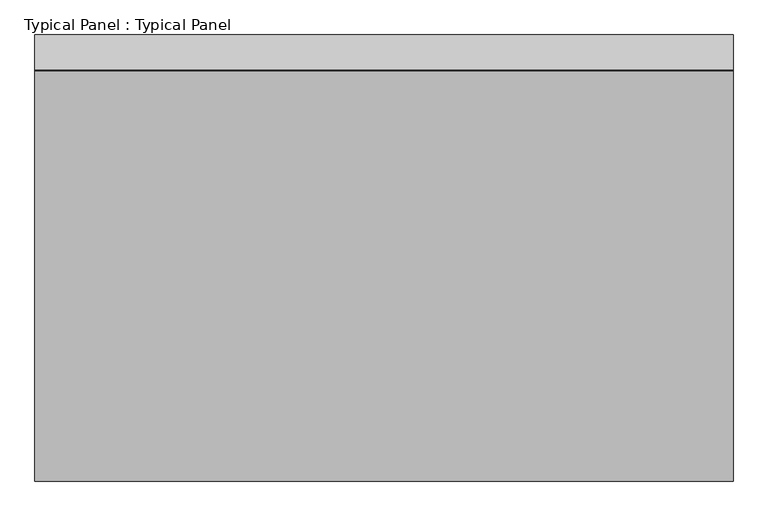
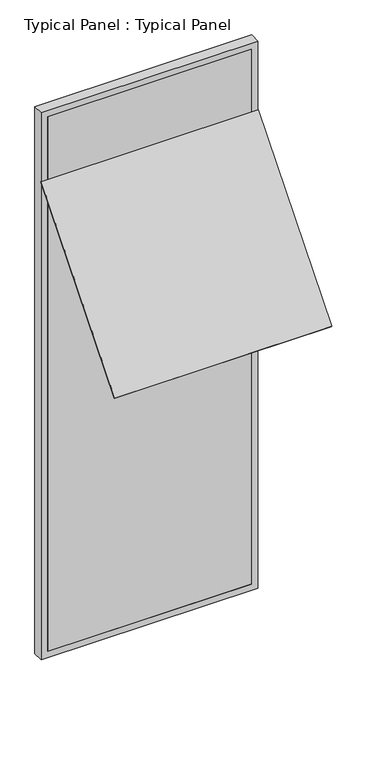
"""IFC4 building model written with IfcOpenShell, lengths in millimetres: plate geometry, Typical Panel : Typical Panel."""

from ifc_helpers import new_model, si_unit, frame, origin, place, context, project, spatial, polyline, outline, extrude, source, transform, mapped, element, save


def typical_panel_typical_panel_bf64ccab(model_context):
    return source(origin(), model_context, "Body", "SweptSolid", [
        extrude(outline(polyline([(0.0, -10.0000001), (0.0, 0.0), (1500.0, 0.0), (1500.0, -10.0000001), (0.0, -10.0000001)])), frame((750.0, -885.6190253, 2450.5191129), z_axis=(0.0, 0.6427876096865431, 0.7660444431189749), x_axis=(-1.0, 0.0, 0.0)), (0.0, 0.0, 1.0), 1370.0),
        extrude(outline(polyline([(0.0, -750.0), (0.0, 750.0), (4000.0, 750.0), (4000.0, -750.0), (0.0, -750.0)]), holes=[polyline([(45.0, 705.0), (45.0, -705.0), (3955.0, -705.0), (3955.0, 705.0), (45.0, 705.0)])]), frame((0.0, -1.5797986, 0.0), z_axis=(0.0, 1.0, 0.0), x_axis=(0.0, 0.0, 1.0)), (0.0, 0.0, 1.0), 75.0),
        extrude(outline(polyline([(705.0, -1.5797986), (-705.0, -1.5797986), (-705.0, 13.4202014), (705.0, 13.4202014), (705.0, -1.5797986)])), frame((0.0, 0.0, 45.0), z_axis=(0.0, 0.0, 1.0), x_axis=(1.0, 0.0, 0.0)), (0.0, 0.0, 1.0), 3910.0),
    ])


if __name__ == "__main__":
    model = new_model("IFC4")
    model_context = context("Model", 3, world=origin())
    ifc_project = project(units=[si_unit("LENGTHUNIT", "METRE", prefix="MILLI")], contexts=[model_context])
    site = spatial("IfcSite", under=ifc_project)
    building = spatial("IfcBuilding", under=site)
    placement = place(None, origin())
    typical_panel_typical_panel_shape = typical_panel_typical_panel_bf64ccab(model_context)
    element("IfcPlate", 1, ObjectType="Typical Panel : Typical Panel", at=placement, inside=building, context=model_context, shape_type="MappedRepresentation", body=[
        mapped(typical_panel_typical_panel_shape, transform((0.0, 0.0, 0.0), x_axis=(1.0, 0.0, 0.0), y_axis=(0.0, 1.0, 0.0), z_axis=(0.0, 0.0, 1.0))),
    ])
    save(model, "model.ifc")
